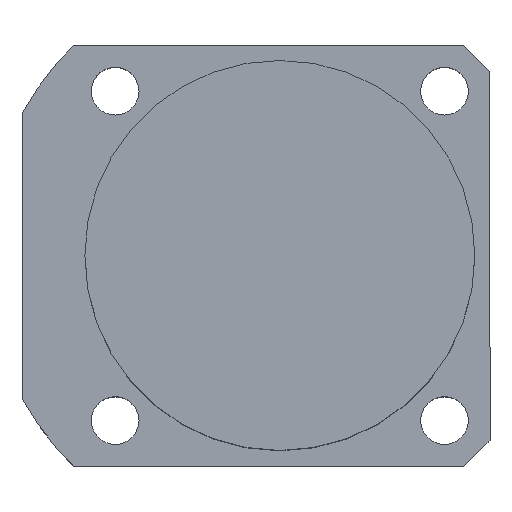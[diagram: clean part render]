
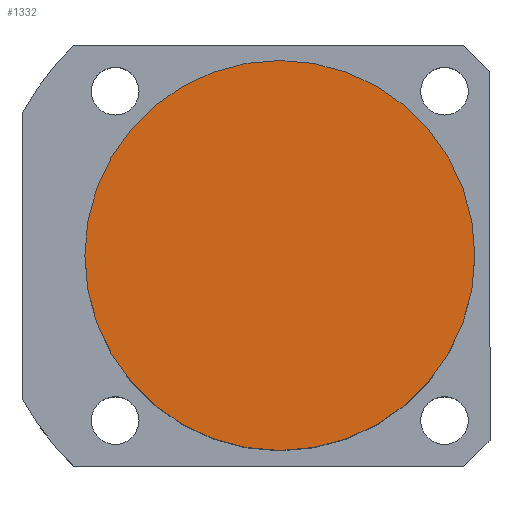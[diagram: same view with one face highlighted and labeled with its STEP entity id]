
A CAD part, top view. The second image highlights one B-rep face of the part: STEP entity #1332.
In plain terms, the highlighted planar face has unit normal (0, 0, 1).
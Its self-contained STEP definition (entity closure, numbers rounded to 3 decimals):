
#60 = CARTESIAN_POINT ( 'NONE',  ( 0., 0., 69.5 ) ) ;
#144 = CIRCLE ( 'NONE', #1518, 45. ) ;
#152 = EDGE_CURVE ( 'NONE', #200, #605, #144, .T. ) ;
#168 = AXIS2_PLACEMENT_3D ( 'NONE', #1427, #1135, #986 ) ;
#200 = VERTEX_POINT ( 'NONE', #1487 ) ;
#219 = CARTESIAN_POINT ( 'NONE',  ( 45., 0., 69.5 ) ) ;
#438 = AXIS2_PLACEMENT_3D ( 'NONE', #60, #1463, #748 ) ;
#452 = PLANE ( 'NONE',  #168 ) ;
#605 = VERTEX_POINT ( 'NONE', #219 ) ;
#748 = DIRECTION ( 'NONE',  ( 1., 0., 0. ) ) ;
#772 = ORIENTED_EDGE ( 'NONE', *, *, #1355, .T. ) ;
#821 = EDGE_LOOP ( 'NONE', ( #943, #772 ) ) ;
#932 = CARTESIAN_POINT ( 'NONE',  ( 0., 0., 69.5 ) ) ;
#943 = ORIENTED_EDGE ( 'NONE', *, *, #152, .T. ) ;
#986 = DIRECTION ( 'NONE',  ( 1., 0., 0. ) ) ;
#1135 = DIRECTION ( 'NONE',  ( 0., 0., 1. ) ) ;
#1150 = CIRCLE ( 'NONE', #438, 45. ) ;
#1332 = ADVANCED_FACE ( 'NONE', ( #1417 ), #452, .T. ) ;
#1345 = DIRECTION ( 'NONE',  ( 1., 0., 0. ) ) ;
#1355 = EDGE_CURVE ( 'NONE', #605, #200, #1150, .T. ) ;
#1417 = FACE_OUTER_BOUND ( 'NONE', #821, .T. ) ;
#1427 = CARTESIAN_POINT ( 'NONE',  ( 0., 0., 69.5 ) ) ;
#1463 = DIRECTION ( 'NONE',  ( 0., 0., 1. ) ) ;
#1487 = CARTESIAN_POINT ( 'NONE',  ( -45., 0., 69.5 ) ) ;
#1518 = AXIS2_PLACEMENT_3D ( 'NONE', #932, #1619, #1345 ) ;
#1619 = DIRECTION ( 'NONE',  ( 0., 0., 1. ) ) ;
